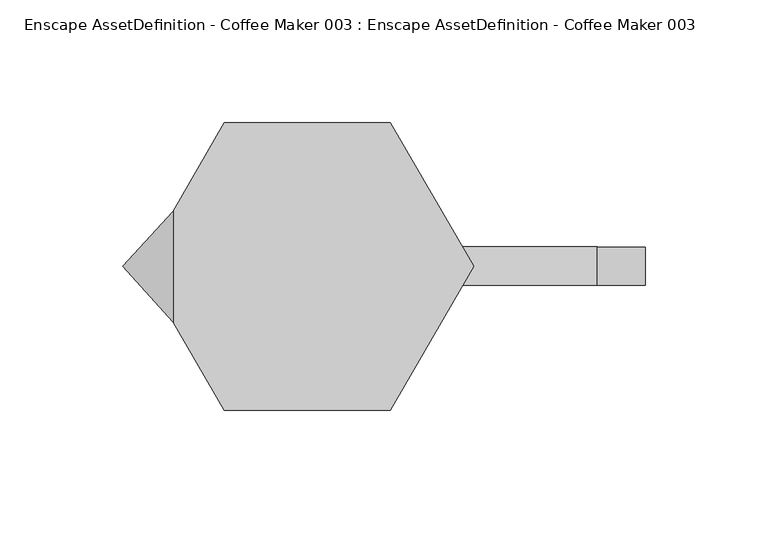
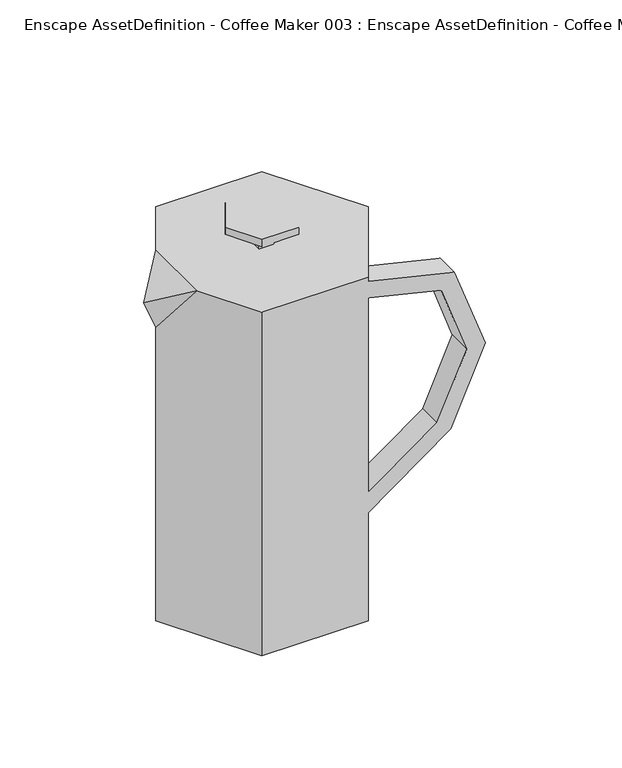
"""IFC4 building model written with IfcOpenShell, lengths in millimetres: geographic element geometry, Enscape AssetDefinition - Coffee Maker 003 : Enscape AssetDefinition - Coffee Maker 003."""

from ifc_helpers import new_model, si_unit, origin, place, context, project, spatial, triangles, source, transform, mapped, element, save


def enscape_assetdefinition_coffee_maker_003_enscape_548c8cb7(model_context):
    return source(origin(), model_context, "Body", "Tessellation", [
        triangles([(11.7579442, -20.3653267, 245.0372961), (11.7579442, -20.3653267, 249.9673186), (-11.7579442, -20.3653267, 249.9673186), (-11.7579442, 20.3643025, 245.0372961), (-11.7579442, -20.3653267, 245.0372961), (23.5148642, 0.0, 245.0372961), (-23.5148642, 0.0, 249.9673186), (-23.5148642, 0.0, 245.0372961), (23.5148642, 0.0, 249.9673186), (11.7579442, 20.3643025, 245.0372961), (-11.7579442, 20.3643025, 249.9673186), (11.7579442, 20.3643025, 249.9673186), (67.792192, 0.0, 0.0), (33.895585, -58.7100837, 0.0), (33.895585, 58.7090618, 231.7571474), (33.895585, -58.7100837, 231.7571474), (-33.895585, -58.7100837, 231.7571474), (67.792192, 0.0, 231.7571474), (-33.895585, -58.7100837, 0.0), (-54.6927644, -22.6889403, 231.7571474), (33.895585, 58.7090618, 0.0), (-54.650902, 22.7604044, 221.0905746), (-33.895585, 58.7090618, 231.7571474), (-33.895585, 58.7090618, 0.0), (-67.792192, 0.0, 0.0), (-67.792192, 0.0, 197.9136281), (-75.4358252, 0.0, 217.1416514), (-54.8101673, 22.4847558, 231.7571474), (-54.6529458, -22.7573432, 220.9456162), (4.7687201, -4.7697415, 227.9103255), (4.7687201, -4.7697415, 246.2185103), (-4.7687201, 4.7687201, 227.9103255), (-4.7687201, -4.7697415, 227.9103255), (-4.7687201, 4.7687201, 246.2185103), (4.7687201, 4.7687201, 227.9103255), (-4.7687201, -4.7697415, 246.2185103), (4.7687201, 4.7687201, 246.2185103), (61.1531441, -7.7600181, 188.2332597), (57.9270329, 7.9366369, 177.6902078), (118.2338442, 7.9366369, 174.4926922), (61.1531441, 7.9366369, 188.2332597), (109.9756092, 7.9366369, 165.4891901), (57.9270329, -7.7600181, 177.6902078), (109.9756092, -7.7600181, 165.4891901), (137.9570044, -7.7600181, 120.0633292), (118.2338442, -7.7600181, 174.4926922), (126.0520534, -7.7600181, 120.1051962), (126.0520534, 7.9366369, 120.1051962), (107.0466001, -7.7600181, 77.0550078), (137.9570044, 7.9366369, 120.0633292), (54.6560071, -7.7600181, 38.9501661), (54.6560071, 7.9366369, 38.9501661), (107.0466001, 7.9366369, 77.0550078), (61.1419211, -7.7600181, 30.0334457), (116.055189, -7.7600181, 69.9728819), (61.1419211, 7.9366369, 30.0334457), (116.055189, 7.9366369, 69.9728819)], [[52, 56, 54], [52, 54, 51], [57, 56, 52], [56, 57, 55], [55, 54, 56], [54, 55, 49], [49, 51, 54], [51, 49, 53], [52, 53, 57], [53, 52, 51], [50, 57, 53], [57, 50, 45], [45, 55, 57], [46, 45, 50], [55, 45, 47], [47, 49, 55], [49, 47, 48], [53, 48, 50], [48, 53, 49], [42, 48, 47], [45, 46, 44], [47, 44, 42], [44, 47, 45], [43, 44, 46], [44, 43, 39], [39, 42, 44], [42, 39, 41], [48, 42, 40], [50, 40, 46], [40, 50, 48], [41, 40, 42], [38, 41, 39], [46, 38, 43], [40, 41, 38], [39, 43, 38], [38, 46, 40], [37, 34, 36], [36, 31, 37], [37, 31, 30], [34, 37, 35], [30, 35, 37], [36, 34, 32], [35, 32, 34], [31, 36, 33], [35, 30, 33], [32, 33, 36], [33, 30, 31], [33, 32, 35], [25, 19, 29], [26, 25, 29], [20, 27, 26], [29, 20, 26], [26, 27, 28], [28, 27, 20], [22, 25, 26], [22, 26, 28], [22, 24, 25], [19, 25, 24], [21, 24, 23], [22, 28, 23], [22, 23, 24], [21, 23, 15], [28, 20, 17], [23, 28, 17], [19, 17, 29], [17, 20, 29], [19, 16, 17], [18, 23, 17], [18, 15, 23], [16, 18, 17], [13, 21, 15], [19, 24, 13], [24, 21, 13], [13, 15, 18], [14, 13, 18], [19, 14, 16], [14, 18, 16], [14, 19, 13], [10, 11, 12], [9, 12, 11], [9, 11, 3], [2, 9, 3], [11, 7, 3], [8, 3, 7], [4, 8, 7], [10, 4, 11], [4, 7, 11], [6, 10, 12], [4, 10, 6], [6, 12, 9], [8, 5, 3], [5, 4, 6], [5, 8, 4], [5, 2, 3], [1, 6, 9], [5, 1, 2], [1, 9, 2], [1, 5, 6]]),
    ])


if __name__ == "__main__":
    model = new_model("IFC4")
    model_context = context("Model", 3, world=origin())
    ifc_project = project(units=[si_unit("LENGTHUNIT", "METRE", prefix="MILLI")], contexts=[model_context])
    site = spatial("IfcSite", under=ifc_project)
    building = spatial("IfcBuilding", under=site)
    placement = place(None, origin())
    enscape_assetdefinition_coffee_maker_003_enscape_shape = enscape_assetdefinition_coffee_maker_003_enscape_548c8cb7(model_context)
    element("IfcGeographicElement", 1, ObjectType="Enscape AssetDefinition - Coffee Maker 003 : Enscape AssetDefinition - Coffee Maker 003", at=placement, inside=building, context=model_context, shape_type="MappedRepresentation", body=[
        mapped(enscape_assetdefinition_coffee_maker_003_enscape_shape, transform((0.0, 0.0, 0.0), x_axis=(1.0, 0.0, 0.0), y_axis=(0.0, 1.0, 0.0), z_axis=(0.0, 0.0, 1.0))),
    ])
    save(model, "model.ifc")
